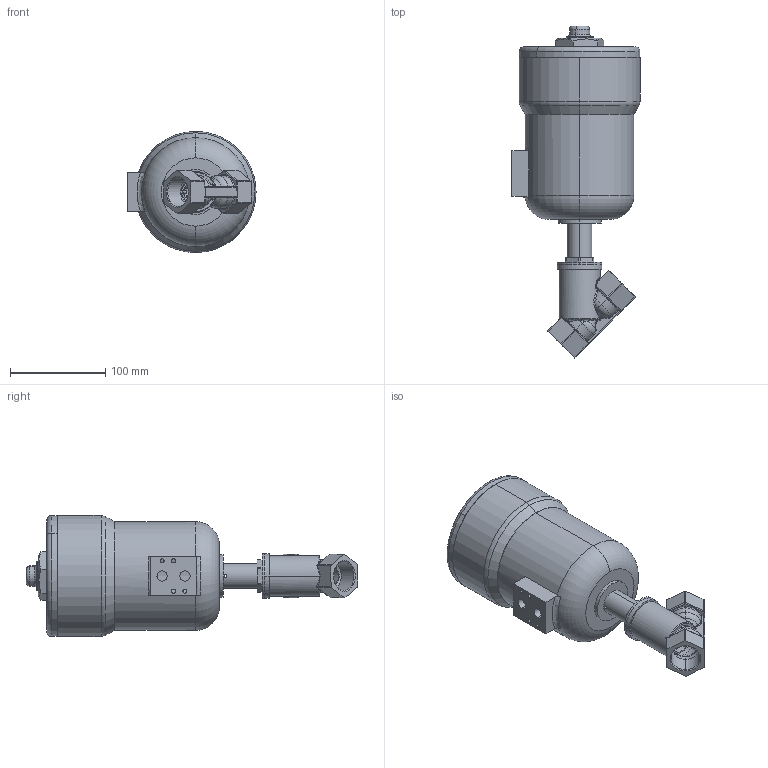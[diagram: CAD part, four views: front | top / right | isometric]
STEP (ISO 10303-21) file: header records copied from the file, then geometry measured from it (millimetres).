
FILE_DESCRIPTION (( 'STEP AP203' ), '1' );
FILE_NAME ('PCIPFM_025_3_1.STEP', '2017-07-25T17:04:20', ( 'user' ), ( '' ), 'SwSTEP 2.0', 'SolidWorks 2013', '' );
FILE_SCHEMA (( 'CONFIG_CONTROL_DESIGN' ));
Length unit declared in the file: millimetre
Products named in the file (1): PCIPFM_025_3_1
Bounding box: 134.5 x 348.42 x 127 mm (x, y, z)
Surface area: 129707.2 mm2 (no closed solid volume)
Topology: 0 solids, 6 shells, 317 faces, 826 edges, 495 vertices
Faces by surface type: cylinder 103, plane 70, bspline 66, torus 38, cone 21, sphere 19
Entity records: 13137 total; most frequent: CARTESIAN_POINT 5913, ORIENTED_EDGE 1485, DIRECTION 1468, EDGE_CURVE 812, AXIS2_PLACEMENT_3D 606, VERTEX_POINT 492, CIRCLE 354, EDGE_LOOP 339
